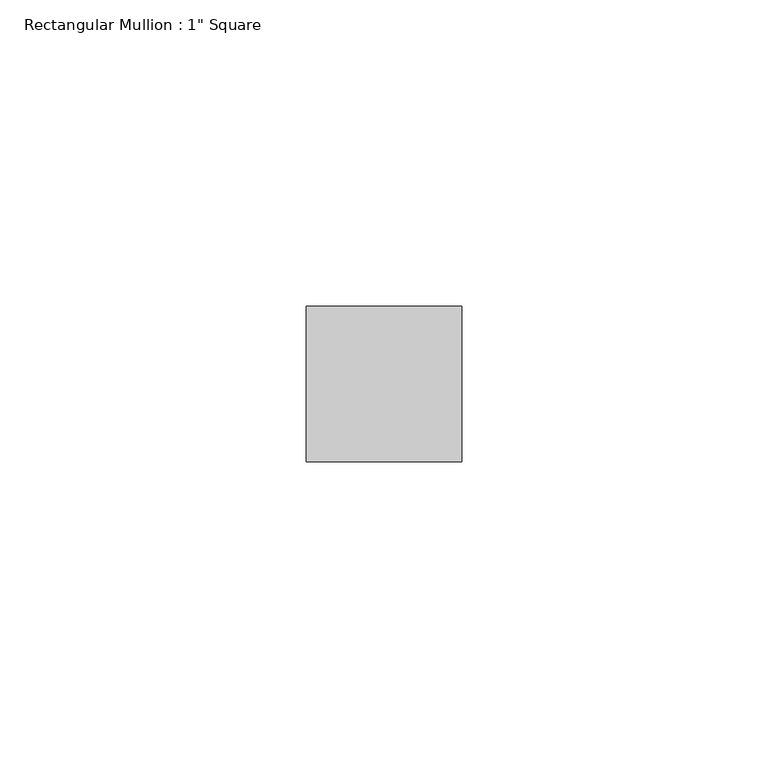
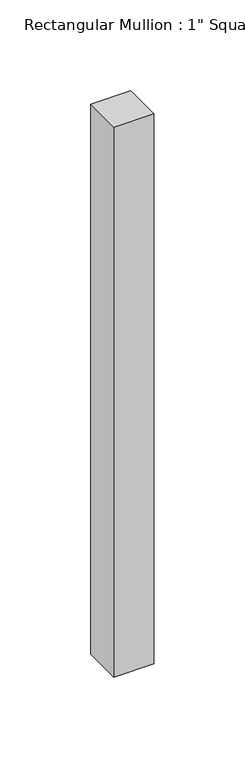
"""IFC4 building model written with IfcOpenShell, lengths in millimetres: member geometry."""

from ifc_helpers import new_model, si_unit, frame, origin, place, context, project, spatial, polyline, outline, extrude, source, transform, mapped, element, save


def member_bc106393(model_context):
    return source(origin(), model_context, "Body", "SweptSolid", [
        extrude(outline(polyline([(0.0, 12.7), (0.0, -12.7), (-25.4, -12.7), (-25.4, 12.7), (0.0, 12.7)])), frame((0.0, 0.0, -369.4169768), z_axis=(0.0, 0.0, 1.0), x_axis=(1.0, 0.0, 0.0)), (0.0, 0.0, 1.0), 369.4169768),
    ])


if __name__ == "__main__":
    model = new_model("IFC4")
    model_context = context("Model", 3, world=origin())
    ifc_project = project(units=[si_unit("LENGTHUNIT", "METRE", prefix="MILLI")], contexts=[model_context])
    site = spatial("IfcSite", under=ifc_project)
    building = spatial("IfcBuilding", under=site)
    placement = place(None, origin())
    member_shape = member_bc106393(model_context)
    element("IfcMember", 1, ObjectType="Rectangular Mullion : 1\" Square", at=placement, inside=building, context=model_context, shape_type="MappedRepresentation", body=[
        mapped(member_shape, transform((0.0, 0.0, 0.0), x_axis=(1.0, 0.0, 0.0), y_axis=(0.0, 1.0, 0.0), z_axis=(0.0, 0.0, 1.0))),
    ])
    save(model, "model.ifc")
